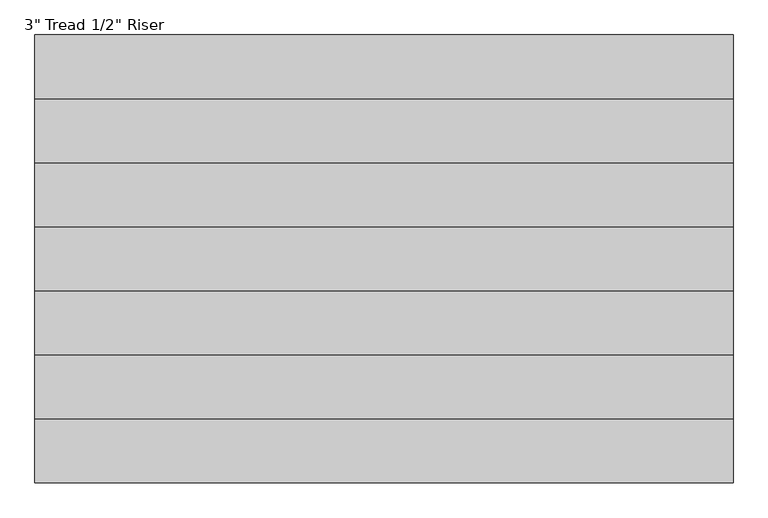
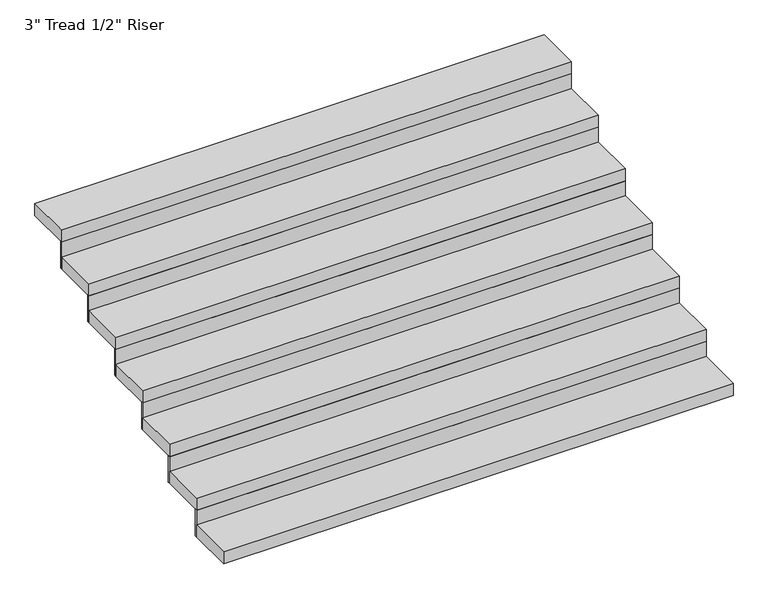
"""IFC4 building model written with IfcOpenShell, lengths in millimetres: stair flight geometry."""

from ifc_helpers import new_model, si_unit, frame, origin, place, context, project, spatial, polyline, outline, extrude, source, transform, mapped, element, save


def stair_flight_f8842335(model_context):
    return source(origin(), model_context, "Body", "SweptSolid", [
        extrude(outline(polyline([(35067.5412551, 175658.7989086), (38115.5412551, 175658.7989086), (38115.5412551, 175379.3989086), (35067.5412551, 175379.3989086), (35067.5412551, 175658.7989086)])), frame((0.0, 0.0, 292849.3), z_axis=(0.0, 0.0, 1.0), x_axis=(1.0, 0.0, 0.0)), (0.0, 0.0, 1.0), 76.2),
        extrude(outline(polyline([(38115.5412551, 175671.4989086), (38115.5412551, 175658.7989086), (35067.5412551, 175658.7989086), (35067.5412551, 175671.4989086), (38115.5412551, 175671.4989086)])), frame((0.0, 0.0, 292849.3), z_axis=(0.0, 0.0, 1.0), x_axis=(1.0, 0.0, 0.0)), (0.0, 0.0, 1.0), 169.8625),
        extrude(outline(polyline([(35067.5412551, 175938.1989086), (38115.5412551, 175938.1989086), (38115.5412551, 175658.7989086), (35067.5412551, 175658.7989086), (35067.5412551, 175938.1989086)])), frame((0.0, 0.0, 293019.1625), z_axis=(0.0, 0.0, 1.0), x_axis=(1.0, 0.0, 0.0)), (0.0, 0.0, 1.0), 76.2),
        extrude(outline(polyline([(38115.5412551, 175950.8989086), (38115.5412551, 175938.1989086), (35067.5412551, 175938.1989086), (35067.5412551, 175950.8989086), (38115.5412551, 175950.8989086)])), frame((0.0, 0.0, 293019.1625), z_axis=(0.0, 0.0, 1.0), x_axis=(1.0, 0.0, 0.0)), (0.0, 0.0, 1.0), 169.8625),
        extrude(outline(polyline([(35067.5412551, 176217.5989086), (38115.5412551, 176217.5989086), (38115.5412551, 175938.1989086), (35067.5412551, 175938.1989086), (35067.5412551, 176217.5989086)])), frame((0.0, 0.0, 293189.025), z_axis=(0.0, 0.0, 1.0), x_axis=(1.0, 0.0, 0.0)), (0.0, 0.0, 1.0), 76.2),
        extrude(outline(polyline([(38115.5412551, 176230.2989086), (38115.5412551, 176217.5989086), (35067.5412551, 176217.5989086), (35067.5412551, 176230.2989086), (38115.5412551, 176230.2989086)])), frame((0.0, 0.0, 293189.025), z_axis=(0.0, 0.0, 1.0), x_axis=(1.0, 0.0, 0.0)), (0.0, 0.0, 1.0), 169.8625),
        extrude(outline(polyline([(35067.5412551, 176496.9989086), (38115.5412551, 176496.9989086), (38115.5412551, 176217.5989086), (35067.5412551, 176217.5989086), (35067.5412551, 176496.9989086)])), frame((0.0, 0.0, 293358.8875), z_axis=(0.0, 0.0, 1.0), x_axis=(1.0, 0.0, 0.0)), (0.0, 0.0, 1.0), 76.2),
        extrude(outline(polyline([(38115.5412551, 176509.6989086), (38115.5412551, 176496.9989086), (35067.5412551, 176496.9989086), (35067.5412551, 176509.6989086), (38115.5412551, 176509.6989086)])), frame((0.0, 0.0, 293358.8875), z_axis=(0.0, 0.0, 1.0), x_axis=(1.0, 0.0, 0.0)), (0.0, 0.0, 1.0), 169.8625),
        extrude(outline(polyline([(35067.5412551, 176776.3989086), (38115.5412551, 176776.3989086), (38115.5412551, 176496.9989086), (35067.5412551, 176496.9989086), (35067.5412551, 176776.3989086)])), frame((0.0, 0.0, 293528.75), z_axis=(0.0, 0.0, 1.0), x_axis=(1.0, 0.0, 0.0)), (0.0, 0.0, 1.0), 76.2),
        extrude(outline(polyline([(38115.5412551, 176789.0989086), (38115.5412551, 176776.3989086), (35067.5412551, 176776.3989086), (35067.5412551, 176789.0989086), (38115.5412551, 176789.0989086)])), frame((0.0, 0.0, 293528.75), z_axis=(0.0, 0.0, 1.0), x_axis=(1.0, 0.0, 0.0)), (0.0, 0.0, 1.0), 169.8625),
        extrude(outline(polyline([(35067.5412551, 177055.7989086), (38115.5412551, 177055.7989086), (38115.5412551, 176776.3989086), (35067.5412551, 176776.3989086), (35067.5412551, 177055.7989086)])), frame((0.0, 0.0, 293698.6125), z_axis=(0.0, 0.0, 1.0), x_axis=(1.0, 0.0, 0.0)), (0.0, 0.0, 1.0), 76.2),
        extrude(outline(polyline([(38115.5412551, 177068.4989086), (38115.5412551, 177055.7989086), (35067.5412551, 177055.7989086), (35067.5412551, 177068.4989086), (38115.5412551, 177068.4989086)])), frame((0.0, 0.0, 293698.6125), z_axis=(0.0, 0.0, 1.0), x_axis=(1.0, 0.0, 0.0)), (0.0, 0.0, 1.0), 169.8625),
        extrude(outline(polyline([(35067.5412551, 177335.1989086), (38115.5412551, 177335.1989086), (38115.5412551, 177055.7989086), (35067.5412551, 177055.7989086), (35067.5412551, 177335.1989086)])), frame((0.0, 0.0, 293868.475), z_axis=(0.0, 0.0, 1.0), x_axis=(1.0, 0.0, 0.0)), (0.0, 0.0, 1.0), 76.2),
    ])


if __name__ == "__main__":
    model = new_model("IFC4")
    model_context = context("Model", 3, world=origin())
    ifc_project = project(units=[si_unit("LENGTHUNIT", "METRE", prefix="MILLI")], contexts=[model_context])
    site = spatial("IfcSite", under=ifc_project)
    building = spatial("IfcBuilding", under=site)
    placement = place(None, origin())
    stair_flight_shape = stair_flight_f8842335(model_context)
    element("IfcStairFlight", 1, ObjectType="3\" Tread 1/2\" Riser", at=placement, inside=building, context=model_context, shape_type="MappedRepresentation", body=[
        mapped(stair_flight_shape, transform((0.0, 0.0, 0.0), x_axis=(1.0, 0.0, 0.0), y_axis=(0.0, 1.0, 0.0), z_axis=(0.0, 0.0, 1.0))),
    ])
    save(model, "model.ifc")
